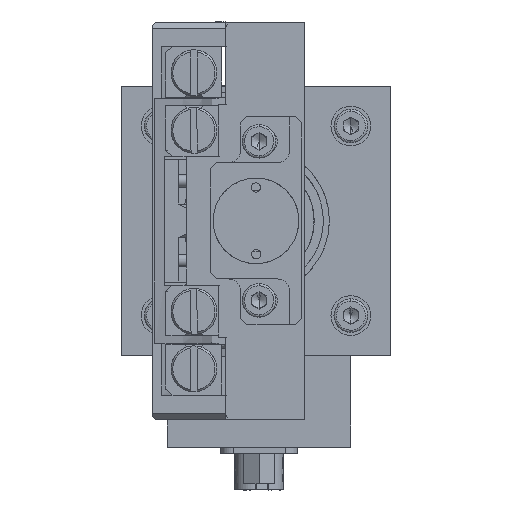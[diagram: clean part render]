
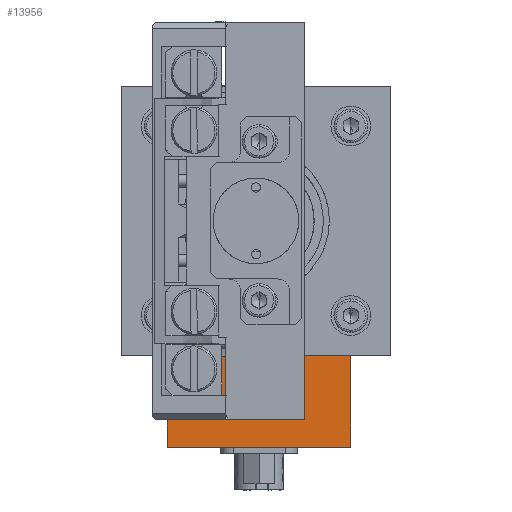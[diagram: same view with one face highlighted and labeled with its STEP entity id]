
A CAD part, left-side view. The second image highlights one B-rep face of the part: STEP entity #13956.
In plain terms, the highlighted planar face has unit normal (-1, 0, 0).
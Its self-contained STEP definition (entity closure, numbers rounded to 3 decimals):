
#1052 = ORIENTED_EDGE ( 'NONE', *, *, #5892, .F. ) ;
#1056 = ORIENTED_EDGE ( 'NONE', *, *, #5848, .T. ) ;
#1061 = ORIENTED_EDGE ( 'NONE', *, *, #5850, .F. ) ;
#1063 = ORIENTED_EDGE ( 'NONE', *, *, #5846, .F. ) ;
#3548 = CARTESIAN_POINT ( 'NONE',  ( 69.5, 22.5, -37. ) ) ;
#3549 = CARTESIAN_POINT ( 'NONE',  ( 69.5, -7.5, -37. ) ) ;
#3579 = CARTESIAN_POINT ( 'NONE',  ( 69.5, 22.5, -22. ) ) ;
#3580 = CARTESIAN_POINT ( 'NONE',  ( 69.5, -7.5, -22. ) ) ;
#3976 = AXIS2_PLACEMENT_3D ( 'NONE', #18570, #18597, #18599 ) ;
#5846 = EDGE_CURVE ( 'NONE', #15368, #15337, #25201, .T. ) ;
#5848 = EDGE_CURVE ( 'NONE', #15367, #15336, #25193, .T. ) ;
#5850 = EDGE_CURVE ( 'NONE', #15367, #15368, #25197, .T. ) ;
#5892 = EDGE_CURVE ( 'NONE', #15337, #15336, #25217, .T. ) ;
#13956 = ADVANCED_FACE ( 'NONE', ( #30597 ), #18585, .F. ) ;
#15336 = VERTEX_POINT ( 'NONE', #3548 ) ;
#15337 = VERTEX_POINT ( 'NONE', #3549 ) ;
#15367 = VERTEX_POINT ( 'NONE', #3579 ) ;
#15368 = VERTEX_POINT ( 'NONE', #3580 ) ;
#18570 = CARTESIAN_POINT ( 'NONE',  ( 69.5, -7.5, -22. ) ) ;
#18585 = PLANE ( 'NONE',  #3976 ) ;
#18597 = DIRECTION ( 'NONE',  ( 1., 0., 0. ) ) ;
#18599 = DIRECTION ( 'NONE',  ( 0., 0., -1. ) ) ;
#25161 = VECTOR ( 'NONE', #29982, 1000. ) ;
#25177 = VECTOR ( 'NONE', #29418, 1000. ) ;
#25193 = LINE ( 'NONE', #29409, #25204 ) ;
#25197 = LINE ( 'NONE', #29416, #25177 ) ;
#25201 = LINE ( 'NONE', #29404, #25206 ) ;
#25204 = VECTOR ( 'NONE', #29415, 1000. ) ;
#25206 = VECTOR ( 'NONE', #29410, 1000. ) ;
#25217 = LINE ( 'NONE', #29981, #25161 ) ;
#29404 = CARTESIAN_POINT ( 'NONE',  ( 69.5, -7.5, -22. ) ) ;
#29409 = CARTESIAN_POINT ( 'NONE',  ( 69.5, 22.5, -22. ) ) ;
#29410 = DIRECTION ( 'NONE',  ( 0., 0., -1. ) ) ;
#29415 = DIRECTION ( 'NONE',  ( 0., 0., -1. ) ) ;
#29416 = CARTESIAN_POINT ( 'NONE',  ( 69.5, -7.5, -22. ) ) ;
#29418 = DIRECTION ( 'NONE',  ( 0., -1., 0. ) ) ;
#29981 = CARTESIAN_POINT ( 'NONE',  ( 69.5, -7.5, -37. ) ) ;
#29982 = DIRECTION ( 'NONE',  ( 0., 1., 0. ) ) ;
#30597 = FACE_OUTER_BOUND ( 'NONE', #33263, .T. ) ;
#33263 = EDGE_LOOP ( 'NONE', ( #1063, #1061, #1056, #1052 ) ) ;
